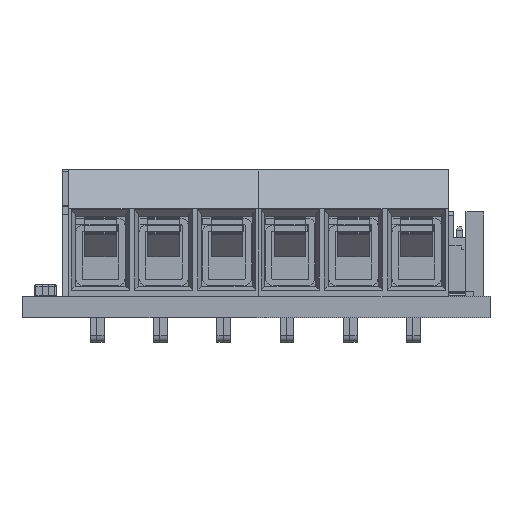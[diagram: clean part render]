
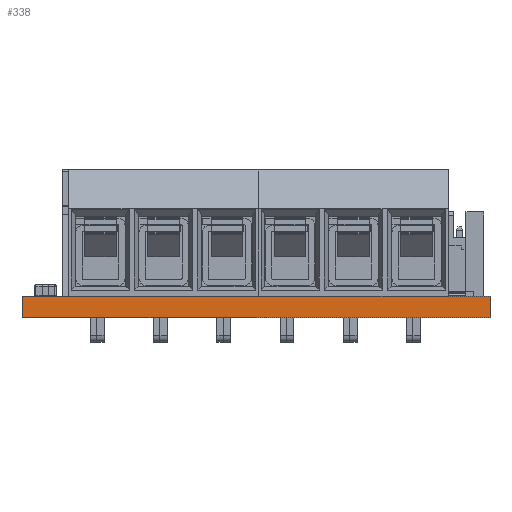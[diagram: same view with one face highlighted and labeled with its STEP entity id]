
A CAD part, front view. The second image highlights one B-rep face of the part: STEP entity #338.
In plain terms, the highlighted planar face has unit normal (0, -1, 0).
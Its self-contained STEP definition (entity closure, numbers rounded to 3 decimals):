
#240 = EDGE_CURVE('',#241,#243,#245,.T.);
#241 = VERTEX_POINT('',#242);
#242 = CARTESIAN_POINT('',(0.,0.,0.));
#243 = VERTEX_POINT('',#244);
#244 = CARTESIAN_POINT('',(0.,0.,1.691));
#245 = LINE('',#246,#247);
#246 = CARTESIAN_POINT('',(0.,0.,0.));
#247 = VECTOR('',#248,1.);
#248 = DIRECTION('',(0.,0.,1.));
#313 = VERTEX_POINT('',#314);
#314 = CARTESIAN_POINT('',(37.,0.,1.691));
#320 = EDGE_CURVE('',#321,#313,#323,.T.);
#321 = VERTEX_POINT('',#322);
#322 = CARTESIAN_POINT('',(37.,0.,0.));
#323 = LINE('',#324,#325);
#324 = CARTESIAN_POINT('',(37.,0.,0.));
#325 = VECTOR('',#326,1.);
#326 = DIRECTION('',(0.,0.,1.));
#338 = ADVANCED_FACE('',(#339),#355,.T.);
#339 = FACE_BOUND('',#340,.T.);
#340 = EDGE_LOOP('',(#341,#342,#348,#349));
#341 = ORIENTED_EDGE('',*,*,#320,.T.);
#342 = ORIENTED_EDGE('',*,*,#343,.T.);
#343 = EDGE_CURVE('',#313,#243,#344,.T.);
#344 = LINE('',#345,#346);
#345 = CARTESIAN_POINT('',(37.,0.,1.691));
#346 = VECTOR('',#347,1.);
#347 = DIRECTION('',(-1.,0.,0.));
#348 = ORIENTED_EDGE('',*,*,#240,.F.);
#349 = ORIENTED_EDGE('',*,*,#350,.F.);
#350 = EDGE_CURVE('',#321,#241,#351,.T.);
#351 = LINE('',#352,#353);
#352 = CARTESIAN_POINT('',(37.,0.,0.));
#353 = VECTOR('',#354,1.);
#354 = DIRECTION('',(-1.,0.,0.));
#355 = PLANE('',#356);
#356 = AXIS2_PLACEMENT_3D('',#357,#358,#359);
#357 = CARTESIAN_POINT('',(37.,0.,0.));
#358 = DIRECTION('',(0.,-1.,0.));
#359 = DIRECTION('',(-1.,0.,0.));
